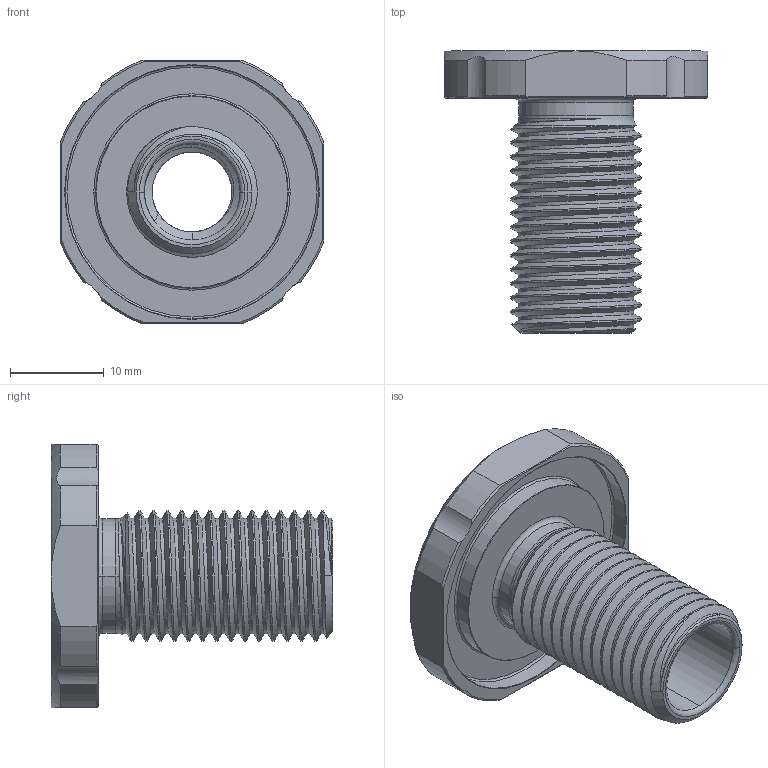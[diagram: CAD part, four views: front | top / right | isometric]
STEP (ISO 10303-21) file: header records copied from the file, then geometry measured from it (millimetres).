
FILE_DESCRIPTION (( 'STEP AP214' ), '1' );
FILE_NAME ('BR-101543_RevB.STEP', '2024-09-17T00:03:00', ( '' ), ( '' ), 'SwSTEP 2.0', 'SolidWorks 2024', '' );
FILE_SCHEMA (( 'AUTOMOTIVE_DESIGN' ));
Length unit declared in the file: millimetre
Products named in the file (1): BR-101543_RevB
Bounding box: 28 x 30 x 28 mm (x, y, z)
Volume: 3843 mm3; surface area: 4550 mm2
Topology: 1 solids, 1 shells, 118 faces, 316 edges, 203 vertices
Faces by surface type: cylinder 63, cone 25, plane 13, torus 11, bspline 6
Entity records: 9559 total; most frequent: CARTESIAN_POINT 6889, ORIENTED_EDGE 632, DIRECTION 487, EDGE_CURVE 316, VERTEX_POINT 203, AXIS2_PLACEMENT_3D 201, EDGE_LOOP 123, FACE_OUTER_BOUND 118
